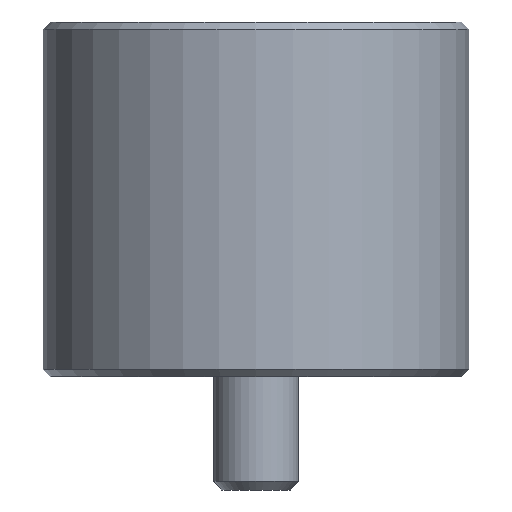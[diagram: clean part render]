
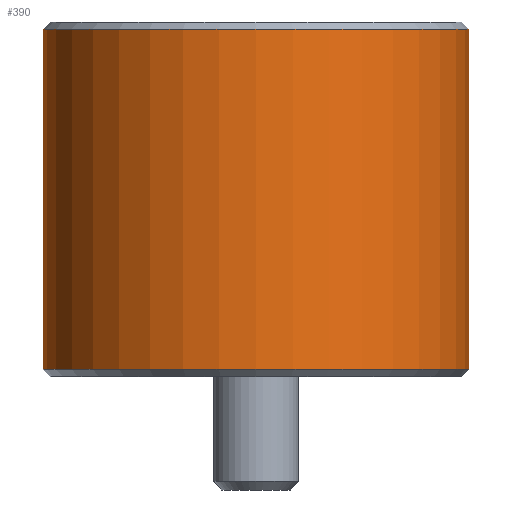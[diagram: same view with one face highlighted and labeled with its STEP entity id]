
A CAD part, front view. The second image highlights one B-rep face of the part: STEP entity #390.
In plain terms, the highlighted cylindrical face has radius 30 mm (diameter 60 mm), a partial arc.
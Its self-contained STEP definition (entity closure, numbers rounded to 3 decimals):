
#109=VERTEX_POINT(' ',#110);
#110=CARTESIAN_POINT('',(-30.,0.,49.));
#111=VERTEX_POINT(' ',#112);
#112=CARTESIAN_POINT('',(30.,0.,49.));
#113=VERTEX_POINT(' ',#114);
#114=CARTESIAN_POINT('',(30.,0.,1.));
#115=VERTEX_POINT(' ',#116);
#116=CARTESIAN_POINT('',(-30.,0.,1.));
#217=CIRCLE('',#218,30.);
#218=AXIS2_PLACEMENT_3D('',#219,#220,#221);
#219=CARTESIAN_POINT('',(0.,0.,49.));
#220=DIRECTION('',(0.,0.,-1.));
#221=DIRECTION('',(0.,1.,0.));
#222=EDGE_CURVE(' ',#109,#111,#217,.F.);
#229=LINE('',#230,#231);
#230=CARTESIAN_POINT('',(-30.,0.,0.));
#231=VECTOR('',#232,1.);
#232=DIRECTION('',(0.,0.,-1.));
#233=EDGE_CURVE(' ',#109,#115,#229,.T.);
#234=LINE('',#235,#236);
#235=CARTESIAN_POINT('',(30.,0.,0.));
#236=VECTOR('',#237,1.);
#237=DIRECTION('',(0.,0.,-1.));
#238=EDGE_CURVE(' ',#111,#113,#234,.T.);
#239=CIRCLE('',#240,30.);
#240=AXIS2_PLACEMENT_3D('',#241,#242,#243);
#241=CARTESIAN_POINT('',(0.,0.,1.));
#242=DIRECTION('',(0.,0.,-1.));
#243=DIRECTION('',(0.,1.,0.));
#244=EDGE_CURVE(' ',#113,#115,#239,.T.);
#379=ORIENTED_EDGE('',*,*,#244,.F.);
#380=ORIENTED_EDGE('',*,*,#238,.F.);
#381=ORIENTED_EDGE('',*,*,#222,.F.);
#382=ORIENTED_EDGE('',*,*,#233,.T.);
#383=EDGE_LOOP('',(#379,#380,#381,#382));
#384=FACE_OUTER_BOUND('',#383,.T.);
#385=CYLINDRICAL_SURFACE('',#386,30.);
#386=AXIS2_PLACEMENT_3D('',#387,#388,#389);
#387=CARTESIAN_POINT('',(0.,0.,50.));
#388=DIRECTION('',(0.,0.,-1.));
#389=DIRECTION('',(0.,1.,0.));
#390=ADVANCED_FACE('',(#384),#385,.T.);
